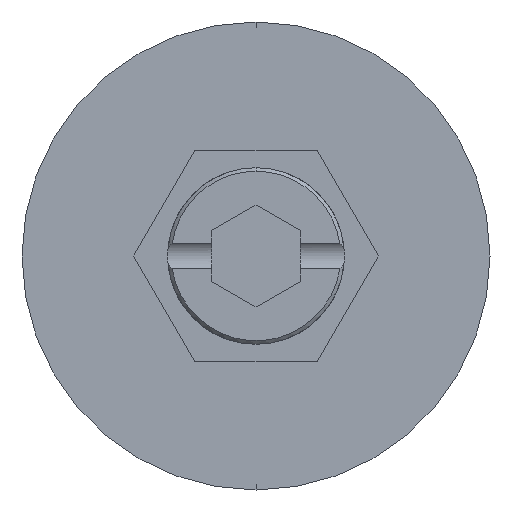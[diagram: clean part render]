
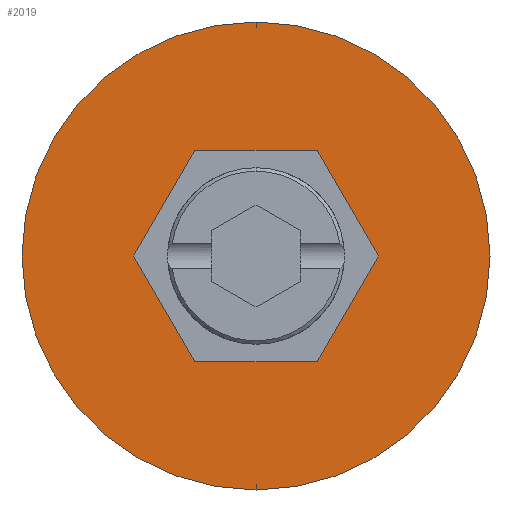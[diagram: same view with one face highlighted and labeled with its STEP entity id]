
A CAD part, front view. The second image highlights one B-rep face of the part: STEP entity #2019.
In plain terms, the highlighted planar face has unit normal (0, -1, 0).
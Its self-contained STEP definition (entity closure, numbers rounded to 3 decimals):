
#29 = EDGE_CURVE ( 'NONE', #565, #1064, #1843, .T. ) ;
#72 = CARTESIAN_POINT ( 'NONE',  ( 0., 0., 0. ) ) ;
#83 = DIRECTION ( 'NONE',  ( -1., 0., 0. ) ) ;
#246 = DIRECTION ( 'NONE',  ( 0., 0., -1. ) ) ;
#263 = VERTEX_POINT ( 'NONE', #849 ) ;
#269 = EDGE_CURVE ( 'NONE', #842, #565, #1836, .T. ) ;
#282 = DIRECTION ( 'NONE',  ( 0.5, 0., 0.866 ) ) ;
#297 = CARTESIAN_POINT ( 'NONE',  ( 6.928, 0., 0. ) ) ;
#341 = CARTESIAN_POINT ( 'NONE',  ( 0., 0., -13.25 ) ) ;
#355 = VERTEX_POINT ( 'NONE', #890 ) ;
#385 = VERTEX_POINT ( 'NONE', #899 ) ;
#422 = DIRECTION ( 'NONE',  ( 0., -1., 0. ) ) ;
#439 = ORIENTED_EDGE ( 'NONE', *, *, #889, .T. ) ;
#453 = DIRECTION ( 'NONE',  ( 0., 0., -1. ) ) ;
#484 = DIRECTION ( 'NONE',  ( -0.5, 0., 0.866 ) ) ;
#485 = VECTOR ( 'NONE', #1110, 1000. ) ;
#565 = VERTEX_POINT ( 'NONE', #1788 ) ;
#601 = EDGE_CURVE ( 'NONE', #1663, #263, #852, .T. ) ;
#617 = ORIENTED_EDGE ( 'NONE', *, *, #1476, .F. ) ;
#653 = VECTOR ( 'NONE', #2063, 1000. ) ;
#842 = VERTEX_POINT ( 'NONE', #1352 ) ;
#849 = CARTESIAN_POINT ( 'NONE',  ( 0., 0., 13.25 ) ) ;
#852 = CIRCLE ( 'NONE', #1534, 13.25 ) ;
#889 = EDGE_CURVE ( 'NONE', #263, #1663, #1944, .T. ) ;
#890 = CARTESIAN_POINT ( 'NONE',  ( 6.928, 0., 0. ) ) ;
#899 = CARTESIAN_POINT ( 'NONE',  ( 3.464, 0., 6. ) ) ;
#927 = VECTOR ( 'NONE', #484, 1000. ) ;
#945 = DIRECTION ( 'NONE',  ( 0., 0., -1. ) ) ;
#953 = EDGE_LOOP ( 'NONE', ( #1578, #439 ) ) ;
#968 = EDGE_LOOP ( 'NONE', ( #617, #1044, #2000, #1094, #1946, #1460 ) ) ;
#1005 = VECTOR ( 'NONE', #83, 1000. ) ;
#1044 = ORIENTED_EDGE ( 'NONE', *, *, #29, .F. ) ;
#1053 = EDGE_CURVE ( 'NONE', #355, #385, #2140, .T. ) ;
#1064 = VERTEX_POINT ( 'NONE', #1221 ) ;
#1094 = ORIENTED_EDGE ( 'NONE', *, *, #1194, .F. ) ;
#1095 = DIRECTION ( 'NONE',  ( 0.5, 0., -0.866 ) ) ;
#1110 = DIRECTION ( 'NONE',  ( -0.5, 0., -0.866 ) ) ;
#1187 = FACE_OUTER_BOUND ( 'NONE', #953, .T. ) ;
#1194 = EDGE_CURVE ( 'NONE', #385, #842, #1862, .T. ) ;
#1221 = CARTESIAN_POINT ( 'NONE',  ( -3.464, 0., -6. ) ) ;
#1263 = AXIS2_PLACEMENT_3D ( 'NONE', #72, #1279, #246 ) ;
#1279 = DIRECTION ( 'NONE',  ( 0., -1., 0. ) ) ;
#1301 = CARTESIAN_POINT ( 'NONE',  ( 3.464, 0., 6. ) ) ;
#1352 = CARTESIAN_POINT ( 'NONE',  ( -3.464, 0., 6. ) ) ;
#1391 = VECTOR ( 'NONE', #1095, 1000. ) ;
#1425 = VECTOR ( 'NONE', #282, 1000. ) ;
#1459 = DIRECTION ( 'NONE',  ( 0., -1., 0. ) ) ;
#1460 = ORIENTED_EDGE ( 'NONE', *, *, #2085, .F. ) ;
#1476 = EDGE_CURVE ( 'NONE', #1064, #1654, #2011, .T. ) ;
#1534 = AXIS2_PLACEMENT_3D ( 'NONE', #2113, #422, #945 ) ;
#1578 = ORIENTED_EDGE ( 'NONE', *, *, #601, .T. ) ;
#1632 = CARTESIAN_POINT ( 'NONE',  ( 0., 0., 0. ) ) ;
#1654 = VERTEX_POINT ( 'NONE', #2131 ) ;
#1663 = VERTEX_POINT ( 'NONE', #341 ) ;
#1718 = CARTESIAN_POINT ( 'NONE',  ( -3.464, 0., -6. ) ) ;
#1788 = CARTESIAN_POINT ( 'NONE',  ( -6.928, 0., 0. ) ) ;
#1836 = LINE ( 'NONE', #2128, #485 ) ;
#1843 = LINE ( 'NONE', #1909, #1391 ) ;
#1862 = LINE ( 'NONE', #1301, #1005 ) ;
#1872 = LINE ( 'NONE', #1981, #1425 ) ;
#1909 = CARTESIAN_POINT ( 'NONE',  ( -6.928, 0., 0. ) ) ;
#1944 = CIRCLE ( 'NONE', #1263, 13.25 ) ;
#1946 = ORIENTED_EDGE ( 'NONE', *, *, #1053, .F. ) ;
#1981 = CARTESIAN_POINT ( 'NONE',  ( 3.464, 0., -6. ) ) ;
#2000 = ORIENTED_EDGE ( 'NONE', *, *, #269, .F. ) ;
#2011 = LINE ( 'NONE', #1718, #653 ) ;
#2019 = ADVANCED_FACE ( 'NONE', ( #2242, #1187 ), #2150, .T. ) ;
#2063 = DIRECTION ( 'NONE',  ( 1., 0., 0. ) ) ;
#2083 = AXIS2_PLACEMENT_3D ( 'NONE', #1632, #1459, #453 ) ;
#2085 = EDGE_CURVE ( 'NONE', #1654, #355, #1872, .T. ) ;
#2113 = CARTESIAN_POINT ( 'NONE',  ( 0., 0., 0. ) ) ;
#2128 = CARTESIAN_POINT ( 'NONE',  ( -3.464, 0., 6. ) ) ;
#2131 = CARTESIAN_POINT ( 'NONE',  ( 3.464, 0., -6. ) ) ;
#2140 = LINE ( 'NONE', #297, #927 ) ;
#2150 = PLANE ( 'NONE',  #2083 ) ;
#2242 = FACE_BOUND ( 'NONE', #968, .T. ) ;
